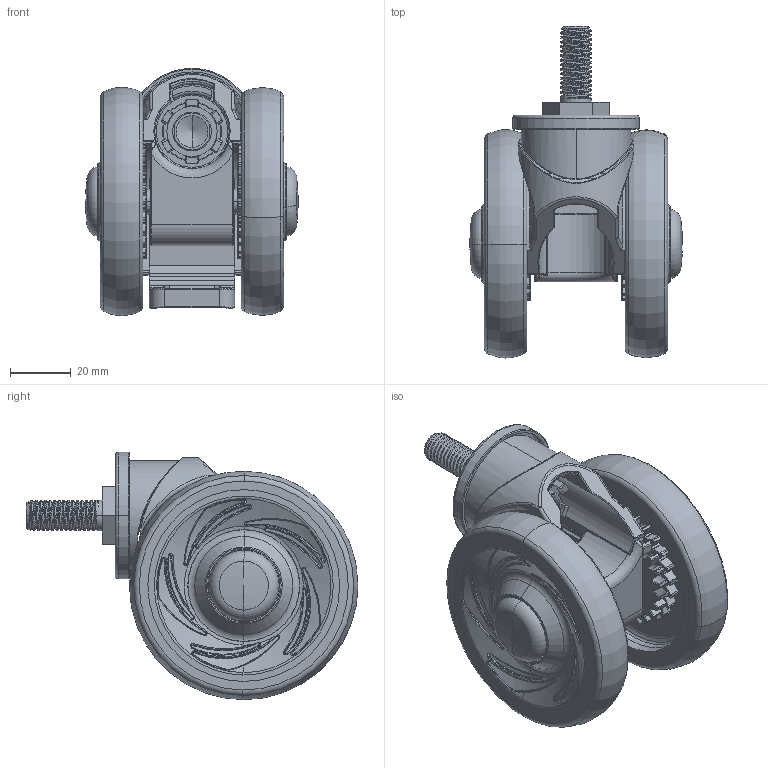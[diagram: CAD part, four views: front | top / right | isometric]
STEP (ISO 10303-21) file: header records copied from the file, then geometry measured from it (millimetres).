
FILE_DESCRIPTION((''),'2;1');
FILE_NAME('PRT0013','2025-08-12T16:17:18',('Administrator'),(''),'CREO PARAMETRIC BY PTC INC, 2024325','CREO PARAMETRIC BY PTC INC, 2024325','');
FILE_SCHEMA(('CONFIG_CONTROL_DESIGN','GEOMETRIC_VALIDATION_PROPERTIES_MIM'));
Length unit declared in the file: millimetre
Products named in the file (1): PRT0013
Bounding box: 69.99 x 109 x 81.25 mm (x, y, z)
Surface area: 49581.4 mm2 (no closed solid volume)
Topology: 0 solids, 46 shells, 1113 faces, 4918 edges, 3634 vertices
Faces by surface type: cylinder 472, plane 311, bspline 195, torus 105, cone 24, sphere 4, extrusion 2
Entity records: 80031 total; most frequent: CARTESIAN_POINT 34590, DIRECTION 7884, ORIENTED_EDGE 6973, EDGE_CURVE 4912, VERTEX_POINT 3634, AXIS2_PLACEMENT_3D 3031, CIRCLE 2115, VECTOR 1822
